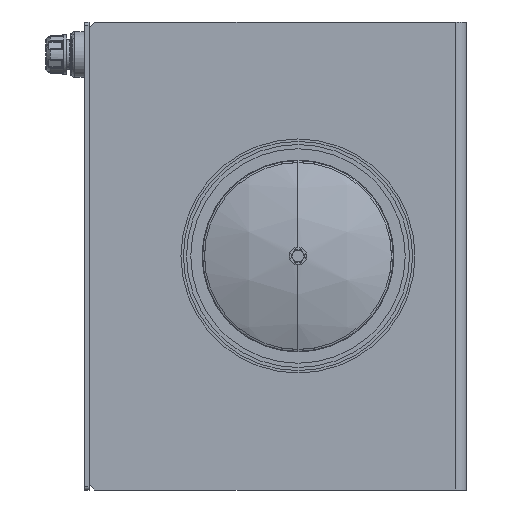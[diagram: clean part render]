
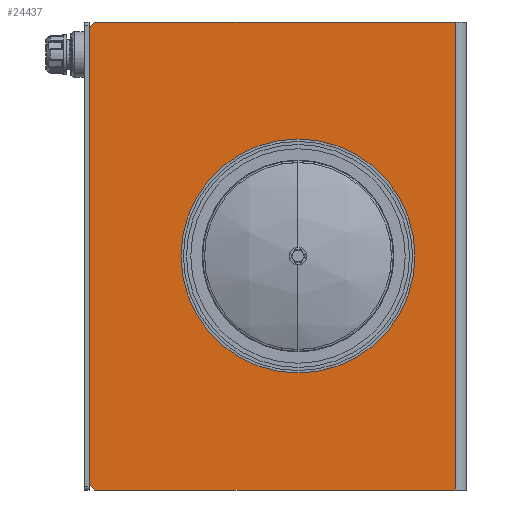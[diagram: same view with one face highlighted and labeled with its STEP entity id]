
A CAD part, left-side view. The second image highlights one B-rep face of the part: STEP entity #24437.
In plain terms, the highlighted planar face has unit normal (-1, 0, 0) as drawn and (0, 0, 1) by its records, which use the part's own axes.
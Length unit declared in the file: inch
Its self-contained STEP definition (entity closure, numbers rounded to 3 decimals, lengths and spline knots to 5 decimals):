
#486 = ORIENTED_EDGE ( 'NONE', *, *, #4597, .T. ) ;
#740 = DIRECTION ( 'NONE',  ( 0., 0., 1. ) ) ;
#897 = CARTESIAN_POINT ( 'NONE',  ( 35.5625, 29., 0.375 ) ) ;
#1503 = VERTEX_POINT ( 'NONE', #7142 ) ;
#1849 = LINE ( 'NONE', #20599, #28718 ) ;
#1890 = CARTESIAN_POINT ( 'NONE',  ( 36., 28.5625, 0.375 ) ) ;
#1933 = VECTOR ( 'NONE', #22523, 39.37008 ) ;
#2165 = CIRCLE ( 'NONE', #21775, 8. ) ;
#2401 = CARTESIAN_POINT ( 'NONE',  ( 0., 0.8438, 0.375 ) ) ;
#2435 = LINE ( 'NONE', #31597, #18307 ) ;
#3926 = VERTEX_POINT ( 'NONE', #27514 ) ;
#4597 = EDGE_CURVE ( 'NONE', #12892, #10353, #30348, .T. ) ;
#5163 = CARTESIAN_POINT ( 'NONE',  ( 10., 12.9375, 0.375 ) ) ;
#5216 = LINE ( 'NONE', #26963, #24291 ) ;
#6254 = EDGE_CURVE ( 'NONE', #1503, #27980, #22065, .T. ) ;
#6760 = CARTESIAN_POINT ( 'NONE',  ( 18., 12.9375, 0.375 ) ) ;
#7034 = CARTESIAN_POINT ( 'NONE',  ( 36., 0.8438, 0.375 ) ) ;
#7142 = CARTESIAN_POINT ( 'NONE',  ( 26., 12.9375, 0.375 ) ) ;
#7401 = VECTOR ( 'NONE', #10248, 39.37008 ) ;
#7619 = DIRECTION ( 'NONE',  ( -1., 0., 0. ) ) ;
#8091 = ORIENTED_EDGE ( 'NONE', *, *, #9043, .T. ) ;
#8285 = CARTESIAN_POINT ( 'NONE',  ( 36., 0., 0.375 ) ) ;
#8445 = DIRECTION ( 'NONE',  ( 1., 0., 0. ) ) ;
#9043 = EDGE_CURVE ( 'NONE', #28379, #29638, #5216, .T. ) ;
#9130 = DIRECTION ( 'NONE',  ( 0., 0., 1. ) ) ;
#9244 = EDGE_CURVE ( 'NONE', #3926, #28379, #15361, .T. ) ;
#9836 = LINE ( 'NONE', #23200, #7401 ) ;
#10204 = CARTESIAN_POINT ( 'NONE',  ( 13.60256, 6.2545, 0.375 ) ) ;
#10248 = DIRECTION ( 'NONE',  ( 0.999, -0.044, 0. ) ) ;
#10353 = VERTEX_POINT ( 'NONE', #28007 ) ;
#10378 = AXIS2_PLACEMENT_3D ( 'NONE', #21101, #20879, #26302 ) ;
#11031 = DIRECTION ( 'NONE',  ( -0.707, 0.707, 0. ) ) ;
#11206 = CARTESIAN_POINT ( 'NONE',  ( 18., 12.9375, 0.375 ) ) ;
#11210 = DIRECTION ( 'NONE',  ( 0.999, 0.044, 0. ) ) ;
#11607 = VERTEX_POINT ( 'NONE', #16799 ) ;
#11849 = EDGE_CURVE ( 'NONE', #10353, #14465, #1849, .T. ) ;
#11896 = VERTEX_POINT ( 'NONE', #33308 ) ;
#12195 = DIRECTION ( 'NONE',  ( 1., 0., 0. ) ) ;
#12247 = AXIS2_PLACEMENT_3D ( 'NONE', #11206, #740, #29435 ) ;
#12892 = VERTEX_POINT ( 'NONE', #1890 ) ;
#13750 = AXIS2_PLACEMENT_3D ( 'NONE', #33490, #23134, #17913 ) ;
#14465 = VERTEX_POINT ( 'NONE', #22200 ) ;
#15241 = LINE ( 'NONE', #21826, #16406 ) ;
#15361 = LINE ( 'NONE', #30734, #1933 ) ;
#15619 = ORIENTED_EDGE ( 'NONE', *, *, #22695, .T. ) ;
#16406 = VECTOR ( 'NONE', #11210, 39.37008 ) ;
#16799 = CARTESIAN_POINT ( 'NONE',  ( 18., 6.0625, 0.375 ) ) ;
#16943 = ORIENTED_EDGE ( 'NONE', *, *, #19504, .T. ) ;
#17229 = ORIENTED_EDGE ( 'NONE', *, *, #9244, .T. ) ;
#17444 = EDGE_LOOP ( 'NONE', ( #22562, #20601, #33475, #17957, #29303 ) ) ;
#17913 = DIRECTION ( 'NONE',  ( -1., 0., 0. ) ) ;
#17957 = ORIENTED_EDGE ( 'NONE', *, *, #6254, .F. ) ;
#18307 = VECTOR ( 'NONE', #21391, 39.37008 ) ;
#18523 = DIRECTION ( 'NONE',  ( 0., 1., 0. ) ) ;
#19504 = EDGE_CURVE ( 'NONE', #29638, #12892, #23398, .T. ) ;
#20599 = CARTESIAN_POINT ( 'NONE',  ( 0., 29., 0.375 ) ) ;
#20601 = ORIENTED_EDGE ( 'NONE', *, *, #31881, .F. ) ;
#20831 = EDGE_CURVE ( 'NONE', #27980, #21878, #2165, .T. ) ;
#20879 = DIRECTION ( 'NONE',  ( 0., 0., 1. ) ) ;
#21101 = CARTESIAN_POINT ( 'NONE',  ( 18., 12.9375, 0.375 ) ) ;
#21391 = DIRECTION ( 'NONE',  ( -0.707, -0.707, 0. ) ) ;
#21562 = EDGE_LOOP ( 'NONE', ( #23363, #15619, #17229, #8091, #16943, #486 ) ) ;
#21775 = AXIS2_PLACEMENT_3D ( 'NONE', #6760, #9130, #12195 ) ;
#21826 = CARTESIAN_POINT ( 'NONE',  ( 18., 6.0625, 0.375 ) ) ;
#21878 = VERTEX_POINT ( 'NONE', #10204 ) ;
#22065 = CIRCLE ( 'NONE', #12247, 8. ) ;
#22200 = CARTESIAN_POINT ( 'NONE',  ( 0.4375, 29., 0.375 ) ) ;
#22301 = FACE_BOUND ( 'NONE', #17444, .T. ) ;
#22523 = DIRECTION ( 'NONE',  ( 0., -1., 0. ) ) ;
#22562 = ORIENTED_EDGE ( 'NONE', *, *, #32594, .F. ) ;
#22695 = EDGE_CURVE ( 'NONE', #14465, #3926, #2435, .T. ) ;
#23134 = DIRECTION ( 'NONE',  ( 0., 0., -1. ) ) ;
#23200 = CARTESIAN_POINT ( 'NONE',  ( 18., 6.0625, 0.375 ) ) ;
#23363 = ORIENTED_EDGE ( 'NONE', *, *, #11849, .T. ) ;
#23398 = LINE ( 'NONE', #8285, #32376 ) ;
#24291 = VECTOR ( 'NONE', #8445, 39.37008 ) ;
#24437 = ADVANCED_FACE ( 'NONE', ( #22301, #28433 ), #30891, .F. ) ;
#25422 = VECTOR ( 'NONE', #11031, 39.37008 ) ;
#26302 = DIRECTION ( 'NONE',  ( 1., 0., 0. ) ) ;
#26963 = CARTESIAN_POINT ( 'NONE',  ( 0., 0.8438, 0.375 ) ) ;
#27514 = CARTESIAN_POINT ( 'NONE',  ( 0., 28.5625, 0.375 ) ) ;
#27980 = VERTEX_POINT ( 'NONE', #5163 ) ;
#28007 = CARTESIAN_POINT ( 'NONE',  ( 35.5625, 29., 0.375 ) ) ;
#28379 = VERTEX_POINT ( 'NONE', #2401 ) ;
#28433 = FACE_OUTER_BOUND ( 'NONE', #21562, .T. ) ;
#28718 = VECTOR ( 'NONE', #7619, 39.37008 ) ;
#29303 = ORIENTED_EDGE ( 'NONE', *, *, #31507, .F. ) ;
#29435 = DIRECTION ( 'NONE',  ( 1., 0., 0. ) ) ;
#29638 = VERTEX_POINT ( 'NONE', #7034 ) ;
#30348 = LINE ( 'NONE', #897, #25422 ) ;
#30596 = CIRCLE ( 'NONE', #10378, 8. ) ;
#30734 = CARTESIAN_POINT ( 'NONE',  ( 0., 0., 0.375 ) ) ;
#30891 = PLANE ( 'NONE',  #13750 ) ;
#31507 = EDGE_CURVE ( 'NONE', #11896, #1503, #30596, .T. ) ;
#31597 = CARTESIAN_POINT ( 'NONE',  ( 0., 28.5625, 0.375 ) ) ;
#31881 = EDGE_CURVE ( 'NONE', #21878, #11607, #9836, .T. ) ;
#32376 = VECTOR ( 'NONE', #18523, 39.37008 ) ;
#32594 = EDGE_CURVE ( 'NONE', #11607, #11896, #15241, .T. ) ;
#33308 = CARTESIAN_POINT ( 'NONE',  ( 22.39744, 6.2545, 0.375 ) ) ;
#33475 = ORIENTED_EDGE ( 'NONE', *, *, #20831, .F. ) ;
#33490 = CARTESIAN_POINT ( 'NONE',  ( 0., 29., 0.375 ) ) ;
